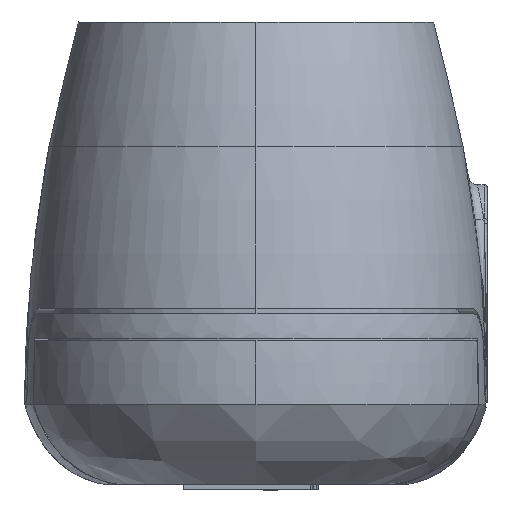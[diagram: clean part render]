
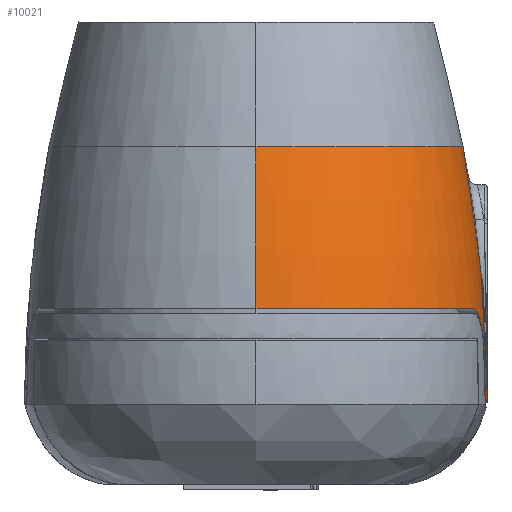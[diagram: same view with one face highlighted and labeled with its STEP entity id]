
A CAD part, left-side view. The second image highlights one B-rep face of the part: STEP entity #10021.
In plain terms, the highlighted toroidal (fillet/blend) face has major radius 62.5 mm and minor radius 75 mm.
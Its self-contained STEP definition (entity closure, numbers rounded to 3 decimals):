
#42 = CIRCLE ( 'NONE', #14828, 12.5 ) ;
#737 = CARTESIAN_POINT ( 'NONE',  ( -34.15, -12.362, -18.53 ) ) ;
#795 = DIRECTION ( 'NONE',  ( -1., 0., 0. ) ) ;
#822 = ORIENTED_EDGE ( 'NONE', *, *, #35896, .T. ) ;
#872 = CARTESIAN_POINT ( 'NONE',  ( -34.074, -12.4, -20.217 ) ) ;
#1125 = CARTESIAN_POINT ( 'NONE',  ( -36.55, -11.633, -15.47 ) ) ;
#1744 = VERTEX_POINT ( 'NONE', #4316 ) ;
#1895 = CARTESIAN_POINT ( 'NONE',  ( -35.51, -11.962, -15.702 ) ) ;
#3604 = CARTESIAN_POINT ( 'NONE',  ( -34.15, -12.337, -17.87 ) ) ;
#4316 = CARTESIAN_POINT ( 'NONE',  ( -32.5, -11.192, -6.75 ) ) ;
#4759 = CARTESIAN_POINT ( 'NONE',  ( -36.246, -11.736, -15.484 ) ) ;
#6259 = CARTESIAN_POINT ( 'NONE',  ( -34.15, -12.337, -17.87 ) ) ;
#7023 = DIRECTION ( 'NONE',  ( -1., 0., 0. ) ) ;
#7193 = FACE_OUTER_BOUND ( 'NONE', #29884, .T. ) ;
#7256 = CARTESIAN_POINT ( 'NONE',  ( -32.5, 0., -6.75 ) ) ;
#7556 = DIRECTION ( 'NONE',  ( 0., 0., -1. ) ) ;
#7759 = CARTESIAN_POINT ( 'NONE',  ( -34.15, -12.325, -17.546 ) ) ;
#8162 = ORIENTED_EDGE ( 'NONE', *, *, #24621, .F. ) ;
#8907 = DIRECTION ( 'NONE',  ( 0., 0., 1. ) ) ;
#9466 = AXIS2_PLACEMENT_3D ( 'NONE', #7256, #15824, #7023 ) ;
#9590 = ORIENTED_EDGE ( 'NONE', *, *, #18927, .T. ) ;
#9823 = AXIS2_PLACEMENT_3D ( 'NONE', #30703, #30954, #13659 ) ;
#10021 = ADVANCED_FACE ( 'NONE', ( #7193 ), #29431, .T. ) ;
#10216 = EDGE_CURVE ( 'NONE', #21084, #22938, #20994, .T. ) ;
#10513 = CARTESIAN_POINT ( 'NONE',  ( -34.216, -12.302, -17.226 ) ) ;
#11074 = CARTESIAN_POINT ( 'NONE',  ( -32.5, -11.192, -6.75 ) ) ;
#12090 = VERTEX_POINT ( 'NONE', #29192 ) ;
#12372 = B_SPLINE_CURVE_WITH_KNOTS ( 'NONE', 3,
 ( #22199, #21948, #4759, #19058, #19182, #1895, #33119, #24688, #13454, #30626, #25059, #18939, #30375, #10513, #7759, #35997 ),
 .UNSPECIFIED., .F., .F.,
 ( 4, 2, 2, 2, 2, 2, 2, 4 ),
 ( 0., 0., 0.001, 0.001, 0.002, 0.002, 0.003, 0.004 ),
 .UNSPECIFIED. ) ;
#12713 = CARTESIAN_POINT ( 'NONE',  ( -33.45, -12.464, -20.55 ) ) ;
#13141 = DIRECTION ( 'NONE',  ( 0., 1., 0. ) ) ;
#13442 = AXIS2_PLACEMENT_3D ( 'NONE', #24423, #29871, #18775 ) ;
#13454 = CARTESIAN_POINT ( 'NONE',  ( -34.986, -12.103, -16.043 ) ) ;
#13659 = DIRECTION ( 'NONE',  ( -1., 0., 0. ) ) ;
#14458 = VERTEX_POINT ( 'NONE', #36157 ) ;
#14828 = AXIS2_PLACEMENT_3D ( 'NONE', #28909, #8907, #795 ) ;
#15044 = CARTESIAN_POINT ( 'NONE',  ( -33.45, -12.464, -20.55 ) ) ;
#15824 = DIRECTION ( 'NONE',  ( 0., 0., -1. ) ) ;
#16783 = CARTESIAN_POINT ( 'NONE',  ( -32.5, -12.491, -15.923 ) ) ;
#16809 = ORIENTED_EDGE ( 'NONE', *, *, #25494, .T. ) ;
#17292 = CIRCLE ( 'NONE', #13442, 75. ) ;
#17332 = CIRCLE ( 'NONE', #17990, 12.318 ) ;
#17528 = ORIENTED_EDGE ( 'NONE', *, *, #10216, .F. ) ;
#17761 = B_SPLINE_CURVE_WITH_KNOTS ( 'NONE', 3,
 ( #11074, #33797, #16783, #25391 ),
 .UNSPECIFIED., .F., .F.,
 ( 4, 4 ),
 ( 0., 1. ),
 .UNSPECIFIED. ) ;
#17773 = CARTESIAN_POINT ( 'NONE',  ( -34.15, -12.386, -19.85 ) ) ;
#17902 = CARTESIAN_POINT ( 'NONE',  ( -33.88, -12.423, -20.41 ) ) ;
#17990 = AXIS2_PLACEMENT_3D ( 'NONE', #19102, #7556, #13141 ) ;
#18775 = DIRECTION ( 'NONE',  ( 0., 0., -1. ) ) ;
#18927 = EDGE_CURVE ( 'NONE', #25933, #22938, #12372, .T. ) ;
#18939 = CARTESIAN_POINT ( 'NONE',  ( -34.48, -12.232, -16.645 ) ) ;
#19058 = CARTESIAN_POINT ( 'NONE',  ( -35.947, -11.832, -15.542 ) ) ;
#19102 = CARTESIAN_POINT ( 'NONE',  ( -32.5, 0., -15.47 ) ) ;
#19182 = CARTESIAN_POINT ( 'NONE',  ( -35.798, -11.877, -15.586 ) ) ;
#19252 = EDGE_CURVE ( 'NONE', #20558, #21084, #23091, .T. ) ;
#20558 = VERTEX_POINT ( 'NONE', #12713 ) ;
#20994 = B_SPLINE_CURVE_WITH_KNOTS ( 'NONE', 3,
 ( #17773, #26122, #737, #3604 ),
 .UNSPECIFIED., .F., .F.,
 ( 4, 4 ),
 ( 0., 1. ),
 .UNSPECIFIED. ) ;
#21084 = VERTEX_POINT ( 'NONE', #30556 ) ;
#21948 = CARTESIAN_POINT ( 'NONE',  ( -36.397, -11.686, -15.47 ) ) ;
#22199 = CARTESIAN_POINT ( 'NONE',  ( -36.55, -11.633, -15.47 ) ) ;
#22938 = VERTEX_POINT ( 'NONE', #6259 ) ;
#23091 = B_SPLINE_CURVE_WITH_KNOTS ( 'NONE', 3,
 ( #15044, #29237, #32098, #23301, #17902, #872, #34698, #23430 ),
 .UNSPECIFIED., .F., .F.,
 ( 4, 2, 2, 4 ),
 ( 0., 0., 0.001, 0.001 ),
 .UNSPECIFIED. ) ;
#23301 = CARTESIAN_POINT ( 'NONE',  ( -33.802, -12.432, -20.462 ) ) ;
#23430 = CARTESIAN_POINT ( 'NONE',  ( -34.15, -12.386, -19.85 ) ) ;
#24423 = CARTESIAN_POINT ( 'NONE',  ( 30., 0., -20.695 ) ) ;
#24621 = EDGE_CURVE ( 'NONE', #25933, #12090, #17332, .T. ) ;
#24688 = CARTESIAN_POINT ( 'NONE',  ( -35.111, -12.071, -15.943 ) ) ;
#25059 = CARTESIAN_POINT ( 'NONE',  ( -34.659, -12.187, -16.383 ) ) ;
#25234 = CIRCLE ( 'NONE', #9466, 11.192 ) ;
#25391 = CARTESIAN_POINT ( 'NONE',  ( -32.499, -12.5, -20.55 ) ) ;
#25494 = EDGE_CURVE ( 'NONE', #14458, #12090, #17292, .T. ) ;
#25933 = VERTEX_POINT ( 'NONE', #1125 ) ;
#26122 = CARTESIAN_POINT ( 'NONE',  ( -34.15, -12.378, -19.19 ) ) ;
#28909 = CARTESIAN_POINT ( 'NONE',  ( -32.5, 0., -20.55 ) ) ;
#29192 = CARTESIAN_POINT ( 'NONE',  ( -44.818, 0., -15.47 ) ) ;
#29237 = CARTESIAN_POINT ( 'NONE',  ( -33.542, -12.457, -20.55 ) ) ;
#29431 = TOROIDAL_SURFACE ( 'NONE', #9823, -62.5, 75. ) ;
#29871 = DIRECTION ( 'NONE',  ( 0., -1., 0. ) ) ;
#29884 = EDGE_LOOP ( 'NONE', ( #822, #16809, #8162, #9590, #17528, #36876, #35973, #33754 ) ) ;
#30375 = CARTESIAN_POINT ( 'NONE',  ( -34.402, -12.252, -16.787 ) ) ;
#30556 = CARTESIAN_POINT ( 'NONE',  ( -34.15, -12.386, -19.85 ) ) ;
#30626 = CARTESIAN_POINT ( 'NONE',  ( -34.761, -12.161, -16.263 ) ) ;
#30703 = CARTESIAN_POINT ( 'NONE',  ( -32.5, 0., -20.695 ) ) ;
#30954 = DIRECTION ( 'NONE',  ( 0., 0., -1. ) ) ;
#32098 = CARTESIAN_POINT ( 'NONE',  ( -33.633, -12.449, -20.532 ) ) ;
#32572 = CARTESIAN_POINT ( 'NONE',  ( -32.499, -12.5, -20.55 ) ) ;
#33034 = EDGE_CURVE ( 'NONE', #20558, #33727, #42, .T. ) ;
#33119 = CARTESIAN_POINT ( 'NONE',  ( -35.372, -12., -15.773 ) ) ;
#33477 = EDGE_CURVE ( 'NONE', #1744, #33727, #17761, .T. ) ;
#33727 = VERTEX_POINT ( 'NONE', #32572 ) ;
#33754 = ORIENTED_EDGE ( 'NONE', *, *, #33477, .F. ) ;
#33797 = CARTESIAN_POINT ( 'NONE',  ( -32.5, -12.052, -11.296 ) ) ;
#34698 = CARTESIAN_POINT ( 'NONE',  ( -34.15, -12.388, -20.035 ) ) ;
#35896 = EDGE_CURVE ( 'NONE', #1744, #14458, #25234, .T. ) ;
#35973 = ORIENTED_EDGE ( 'NONE', *, *, #33034, .T. ) ;
#35997 = CARTESIAN_POINT ( 'NONE',  ( -34.15, -12.337, -17.87 ) ) ;
#36157 = CARTESIAN_POINT ( 'NONE',  ( -43.692, 0., -6.75 ) ) ;
#36876 = ORIENTED_EDGE ( 'NONE', *, *, #19252, .F. ) ;
